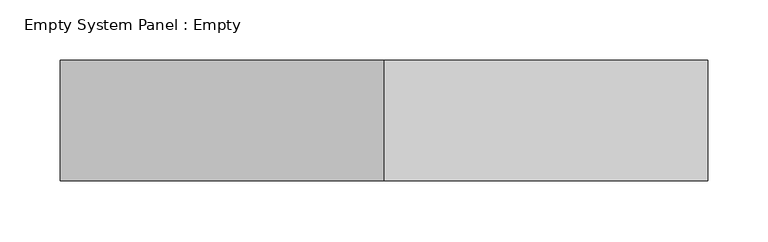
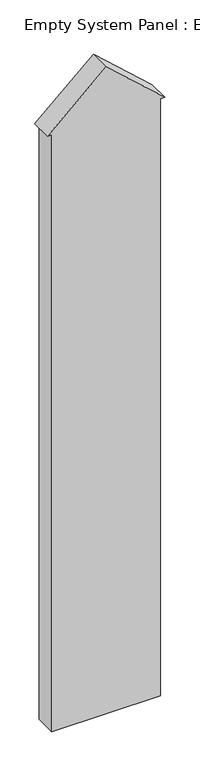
"""IFC4 building model written with IfcOpenShell, lengths in millimetres: plate geometry, Empty System Panel : Empty."""

from ifc_helpers import new_model, si_unit, frame, origin, place, context, project, spatial, polyline, outline, extrude, source, transform, mapped, element, save


def empty_system_panel_empty_64954bb2(model_context):
    return source(origin(), model_context, "Body", "SweptSolid", [
        extrude(outline(polyline([(0.0, -248.7446429), (0.0, 248.7446429), (2884.756915, 248.7446429), (2884.756915, 268.7446429), (3125.1533245, 0.0), (2884.756915, -268.7446429), (2884.756915, -248.7446429), (0.0, -248.7446429)])), frame((0.0, -50.0, 0.0), z_axis=(0.0, 1.0, 0.0), x_axis=(0.0, 0.0, 1.0)), (0.0, 0.0, 1.0), 100.0),
    ])


if __name__ == "__main__":
    model = new_model("IFC4")
    model_context = context("Model", 3, world=origin())
    ifc_project = project(units=[si_unit("LENGTHUNIT", "METRE", prefix="MILLI")], contexts=[model_context])
    site = spatial("IfcSite", under=ifc_project)
    building = spatial("IfcBuilding", under=site)
    placement = place(None, origin())
    empty_system_panel_empty_shape = empty_system_panel_empty_64954bb2(model_context)
    element("IfcPlate", 1, ObjectType="Empty System Panel : Empty", at=placement, inside=building, context=model_context, shape_type="MappedRepresentation", body=[
        mapped(empty_system_panel_empty_shape, transform((0.0, 0.0, 0.0), x_axis=(1.0, 0.0, 0.0), y_axis=(0.0, 1.0, 0.0), z_axis=(0.0, 0.0, 1.0))),
    ])
    save(model, "model.ifc")
